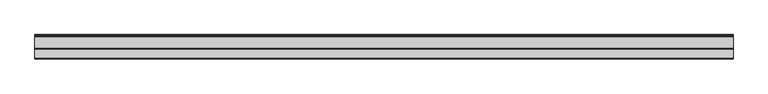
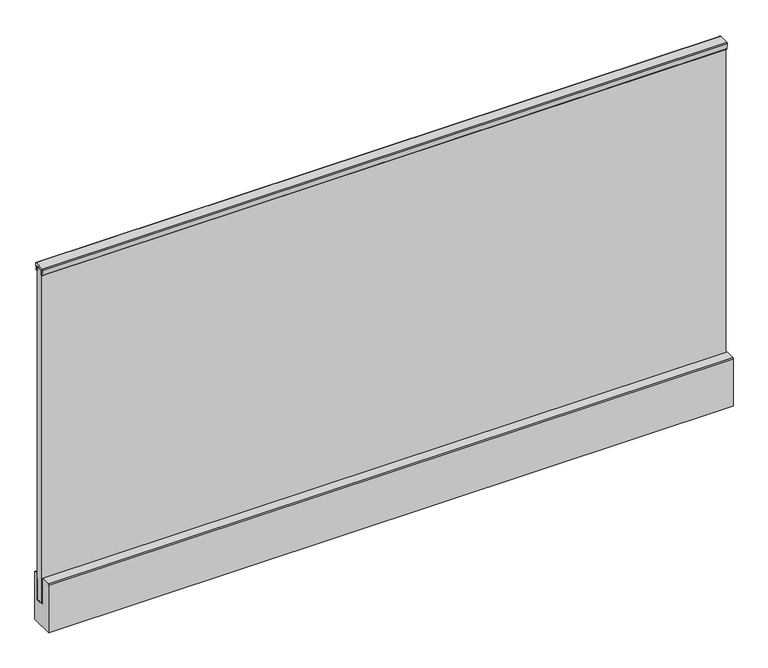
"""IFC4 building model written with IfcOpenShell, lengths in millimetres: railing geometry, Glass Railing (10+10) - Faraone - Ninfa 186 - Fascia mounted - Trapez Handrail 42."""

from ifc_helpers import new_model, si_unit, point, frame, frame_2d, origin, place, context, project, spatial, polyline, circle_curve, trimmed, segment, composite_curve, outline, extrude, source, transform, mapped, element, save


def railing_9bcaf8d0(model_context):
    return source(origin(), model_context, "Body", "SweptSolid", [
        extrude(outline(composite_curve([segment(trimmed(circle_curve(frame_2d((-2716.7558868, 1106.5130839)), 3.0469161), [point((-2716.7558868, 1109.56))], [point((-2713.7388575, 1106.0873703))], False, "CARTESIAN"), True, "CONTINUOUS"), segment(polyline([(-2713.7388575, 1106.0873703), (-2716.5307553, 1086.3012064)]), True, "CONTINUOUS"), segment(trimmed(circle_curve(frame_2d((-2718.5349006, 1086.5839984)), 2.0239984), [point((-2716.5307553, 1086.3012064))], [point((-2718.5349006, 1084.56))], False, "CARTESIAN"), True, "CONTINUOUS"), segment(polyline([(-2718.5349006, 1084.56), (-2722.184137, 1084.56), (-2722.184137, 1102.56), (-2747.684137, 1102.56), (-2747.684137, 1084.56), (-2751.3333735, 1084.56)]), True, "CONTINUOUS"), segment(trimmed(circle_curve(frame_2d((-2751.3333735, 1086.5839984)), 2.0239984), [point((-2751.3333735, 1084.56))], [point((-2753.3375188, 1086.3012064))], False, "CARTESIAN"), True, "CONTINUOUS"), segment(polyline([(-2753.3375188, 1086.3012064), (-2756.1294166, 1106.0873703)]), True, "CONTINUOUS"), segment(trimmed(circle_curve(frame_2d((-2753.1123873, 1106.5130839)), 3.0469161), [point((-2756.1294166, 1106.0873703))], [point((-2753.1123873, 1109.56))], False, "CARTESIAN"), True, "CONTINUOUS"), segment(polyline([(-2753.1123873, 1109.56), (-2716.7558868, 1109.56)]), True, "CONTINUOUS")], self_intersect=False)), frame((4362.6376845, 0.0, 0.0), z_axis=(1.0, 0.0, 0.0), x_axis=(0.0, 1.0, 0.0)), (0.0, 0.0, 1.0), 2320.0),
        extrude(outline(polyline([(-2724.154137, -92.36), (-2745.654137, -92.36), (-2745.654137, 1100.56), (-2735.404137, 1100.56), (-2735.404137, -91.56), (-2734.404137, -91.56), (-2734.404137, 1100.56), (-2724.154137, 1100.56), (-2724.154137, -92.36)])), frame((4362.6376845, 0.0, 0.0), z_axis=(1.0, 0.0, 0.0), x_axis=(0.0, 1.0, 0.0)), (0.0, 0.0, 1.0), 2320.0),
        extrude(outline(composite_curve([segment(trimmed(circle_curve(frame_2d((-2712.2815675, -3.1212327)), 3.1206002), [point((-2712.2815675, -0.0006325))], [point((-2709.1609673, -3.1212327))], False, "CARTESIAN"), True, "CONTINUOUS"), segment(polyline([(-2709.1609673, -3.1212327), (-2709.1609673, -173.21), (-2789.5045007, -173.21), (-2789.5045007, -3.0621312)]), True, "CONTINUOUS"), segment(trimmed(circle_curve(frame_2d((-2786.443002, -3.0621312)), 3.0614987), [point((-2789.5045007, -3.0621312))], [point((-2786.443002, -0.0006325))], False, "CARTESIAN"), True, "CONTINUOUS"), segment(polyline([(-2786.443002, -0.0006325), (-2753.9622661, -0.0006325), (-2753.9622661, -95.3393625), (-2722.186008, -95.3393625), (-2722.186008, -0.0006325), (-2712.2815675, -0.0006325)]), True, "CONTINUOUS")], self_intersect=False)), frame((4362.6376845, 0.0, 0.0), z_axis=(1.0, 0.0, 0.0), x_axis=(0.0, 1.0, 0.0)), (0.0, 0.0, 1.0), 2320.0),
        extrude(outline(polyline([(-2722.1822222, -95.34), (-2745.6660518, -95.34), (-2745.6660518, -92.3609041), (-2724.1561703, -92.3609041), (-2724.1561703, -20.1108016), (-2722.1822222, -20.1108016), (-2722.1822222, -95.34)])), frame((4362.6376845, 0.0, 0.0), z_axis=(1.0, 0.0, 0.0), x_axis=(0.0, 1.0, 0.0)), (0.0, 0.0, 1.0), 2320.0),
        extrude(outline(polyline([(4362.6376845, -2724.184137), (4362.6376845, -2722.184137), (6682.6376845, -2722.184137), (6682.6376845, -2724.184137), (4362.6376845, -2724.184137)])), frame((0.0, 0.0, 1091.82), z_axis=(0.0, 0.0, 1.0), x_axis=(1.0, 0.0, 0.0)), (0.0, 0.0, 1.0), 10.74),
        extrude(outline(polyline([(4362.6376845, -2747.684137), (4362.6376845, -2745.684137), (6682.6376845, -2745.684137), (6682.6376845, -2747.684137), (4362.6376845, -2747.684137)])), frame((0.0, 0.0, 1091.82), z_axis=(0.0, 0.0, 1.0), x_axis=(1.0, 0.0, 0.0)), (0.0, 0.0, 1.0), 10.74),
        extrude(outline(polyline([(4362.6376845, -2745.604137), (4362.6376845, -2724.104137), (6682.6376845, -2724.104137), (6682.6376845, -2745.604137), (4362.6376845, -2745.604137)])), frame((0.0, 0.0, 1100.56), z_axis=(0.0, 0.0, 1.0), x_axis=(1.0, 0.0, 0.0)), (0.0, 0.0, 1.0), 2.0),
    ])


if __name__ == "__main__":
    model = new_model("IFC4")
    model_context = context("Model", 3, world=origin())
    ifc_project = project(units=[si_unit("LENGTHUNIT", "METRE", prefix="MILLI")], contexts=[model_context])
    site = spatial("IfcSite", under=ifc_project)
    building = spatial("IfcBuilding", under=site)
    placement = place(None, origin())
    railing_shape = railing_9bcaf8d0(model_context)
    element("IfcRailing", 1, ObjectType="Glass Railing (10+10) - Faraone - Ninfa 186 - Fascia mounted - Trapez Handrail 42", at=placement, inside=building, context=model_context, shape_type="MappedRepresentation", body=[
        mapped(railing_shape, transform((0.0, 0.0, 0.0), x_axis=(1.0, 0.0, 0.0), y_axis=(0.0, 1.0, 0.0), z_axis=(0.0, 0.0, 1.0))),
    ])
    save(model, "model.ifc")
